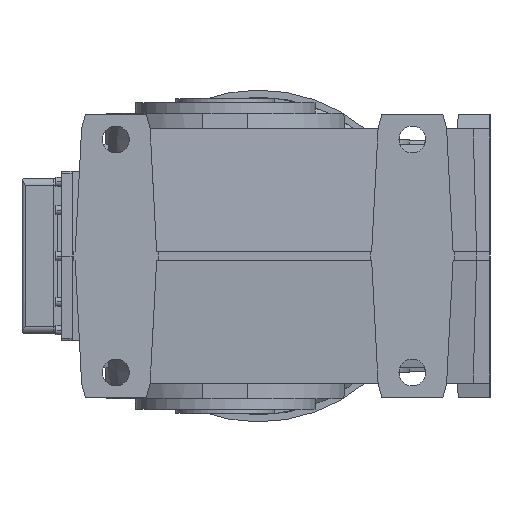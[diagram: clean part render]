
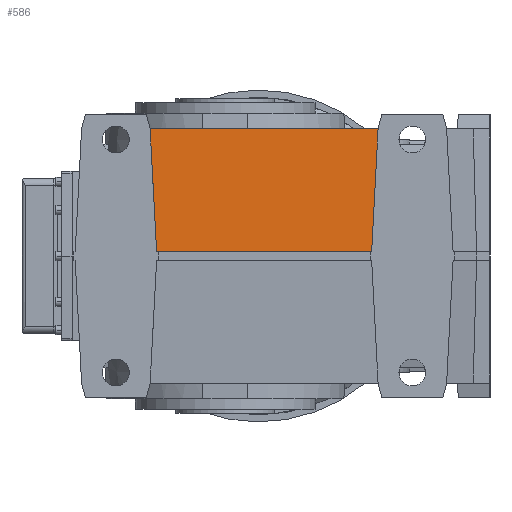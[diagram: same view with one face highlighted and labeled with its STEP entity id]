
A CAD part, left-side view. The second image highlights one B-rep face of the part: STEP entity #586.
In plain terms, the highlighted planar face has unit normal (-0.999, 0, 0.052).
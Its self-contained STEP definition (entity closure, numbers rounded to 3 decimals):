
#586 = ADVANCED_FACE( '', ( #2014 ), #2015, .T. );
#2014 = FACE_OUTER_BOUND( '', #4553, .T. );
#2015 = PLANE( '', #4554 );
#4553 = EDGE_LOOP( '', ( #8349, #8350, #8351, #8352 ) );
#4554 = AXIS2_PLACEMENT_3D( '', #8353, #8354, #8355 );
#8349 = ORIENTED_EDGE( '', *, *, #17078, .F. );
#8350 = ORIENTED_EDGE( '', *, *, #17079, .F. );
#8351 = ORIENTED_EDGE( '', *, *, #17080, .F. );
#8352 = ORIENTED_EDGE( '', *, *, #17081, .F. );
#8353 = CARTESIAN_POINT( '', ( -210.321, 203., 0. ) );
#8354 = DIRECTION( '', ( -0.999, 0., 0.052 ) );
#8355 = DIRECTION( '', ( -0.052, 0., -0.999 ) );
#17078 = EDGE_CURVE( '', #20722, #20723, #20724, .T. );
#17079 = EDGE_CURVE( '', #20725, #20722, #20726, .T. );
#17080 = EDGE_CURVE( '', #20727, #20725, #20728, .T. );
#17081 = EDGE_CURVE( '', #20723, #20727, #20729, .T. );
#20722 = VERTEX_POINT( '', #26420 );
#20723 = VERTEX_POINT( '', #26421 );
#20724 = LINE( '', #26422, #26423 );
#20725 = VERTEX_POINT( '', #26424 );
#20726 = LINE( '', #26425, #26426 );
#20727 = VERTEX_POINT( '', #26427 );
#20728 = LINE( '', #26428, #26429 );
#20729 = LINE( '', #26430, #26431 );
#26420 = CARTESIAN_POINT( '', ( -210.007, -207.333, 6. ) );
#26421 = CARTESIAN_POINT( '', ( -210.007, 97.333, 6. ) );
#26422 = CARTESIAN_POINT( '', ( -210.007, 150.166, 6. ) );
#26423 = VECTOR( '', #34585, 1. );
#26424 = CARTESIAN_POINT( '', ( -200.888, -216.452, 180. ) );
#26425 = CARTESIAN_POINT( '', ( -210.752, -206.588, -8.219 ) );
#26426 = VECTOR( '', #34586, 1. );
#26427 = CARTESIAN_POINT( '', ( -200.888, 106.452, 180. ) );
#26428 = CARTESIAN_POINT( '', ( -200.888, 203., 180. ) );
#26429 = VECTOR( '', #34587, 1. );
#26430 = CARTESIAN_POINT( '', ( -205.499, 101.841, 92.015 ) );
#26431 = VECTOR( '', #34588, 1. );
#34585 = DIRECTION( '', ( 0., 1., 0. ) );
#34586 = DIRECTION( '', ( -0.052, 0.052, -0.997 ) );
#34587 = DIRECTION( '', ( 0., -1., 0. ) );
#34588 = DIRECTION( '', ( 0.052, 0.052, 0.997 ) );
